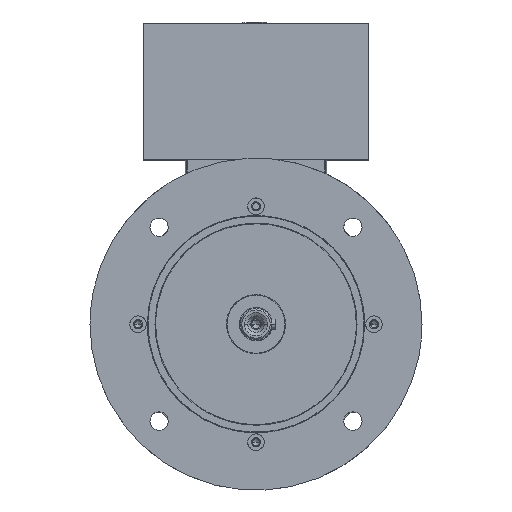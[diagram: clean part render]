
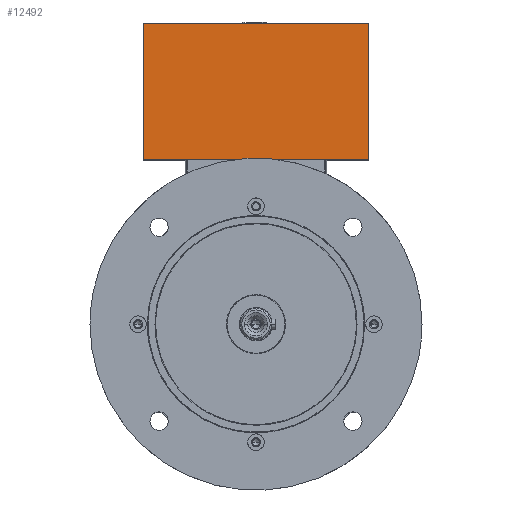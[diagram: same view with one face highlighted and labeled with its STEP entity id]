
A CAD part, top view. The second image highlights one B-rep face of the part: STEP entity #12492.
In plain terms, the highlighted planar face has unit normal (0, 0, 1).
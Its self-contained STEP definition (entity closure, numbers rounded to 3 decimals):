
#102 = CARTESIAN_POINT ( 'NONE',  ( -67.5, -91.919, 67.5 ) ) ;
#262 = EDGE_CURVE ( 'NONE', #28275, #43996, #7291, .T. ) ;
#283 = FACE_OUTER_BOUND ( 'NONE', #1639, .T. ) ;
#1639 = EDGE_LOOP ( 'NONE', ( #35482, #18553, #12863, #30404 ) ) ;
#1665 = LINE ( 'NONE', #39333, #18054 ) ;
#3846 = DIRECTION ( 'NONE',  ( 0., 0., 1. ) ) ;
#7235 = EDGE_CURVE ( 'NONE', #43996, #46008, #1665, .T. ) ;
#7291 = LINE ( 'NONE', #44910, #15479 ) ;
#7355 = DIRECTION ( 'NONE',  ( 1., 0., 0. ) ) ;
#7787 = PLANE ( 'NONE',  #21013 ) ;
#9073 = VECTOR ( 'NONE', #9852, 1000. ) ;
#9077 = CARTESIAN_POINT ( 'NONE',  ( -67.5, 99., 67.5 ) ) ;
#9852 = DIRECTION ( 'NONE',  ( 0., 1., 0. ) ) ;
#10139 = CARTESIAN_POINT ( 'NONE',  ( -67.5, 181., 67.5 ) ) ;
#11538 = DIRECTION ( 'NONE',  ( 1., 0., 0. ) ) ;
#12279 = LINE ( 'NONE', #17518, #26868 ) ;
#12492 = ADVANCED_FACE ( 'NONE', ( #283 ), #7787, .T. ) ;
#12863 = ORIENTED_EDGE ( 'NONE', *, *, #7235, .F. ) ;
#13757 = DIRECTION ( 'NONE',  ( 1., 0., 0. ) ) ;
#15479 = VECTOR ( 'NONE', #7355, 1000. ) ;
#15772 = EDGE_CURVE ( 'NONE', #22635, #46008, #12279, .T. ) ;
#17518 = CARTESIAN_POINT ( 'NONE',  ( 0., 99., 67.5 ) ) ;
#18054 = VECTOR ( 'NONE', #28196, 1000. ) ;
#18553 = ORIENTED_EDGE ( 'NONE', *, *, #15772, .T. ) ;
#18987 = LINE ( 'NONE', #21451, #9073 ) ;
#21013 = AXIS2_PLACEMENT_3D ( 'NONE', #102, #3846, #11538 ) ;
#21451 = CARTESIAN_POINT ( 'NONE',  ( -67.5, -91.919, 67.5 ) ) ;
#21828 = EDGE_CURVE ( 'NONE', #22635, #28275, #18987, .T. ) ;
#22635 = VERTEX_POINT ( 'NONE', #9077 ) ;
#23418 = CARTESIAN_POINT ( 'NONE',  ( 67.5, 99., 67.5 ) ) ;
#26868 = VECTOR ( 'NONE', #13757, 1000. ) ;
#27208 = CARTESIAN_POINT ( 'NONE',  ( 67.5, 181., 67.5 ) ) ;
#28196 = DIRECTION ( 'NONE',  ( 0., -1., 0. ) ) ;
#28275 = VERTEX_POINT ( 'NONE', #10139 ) ;
#30404 = ORIENTED_EDGE ( 'NONE', *, *, #262, .F. ) ;
#35482 = ORIENTED_EDGE ( 'NONE', *, *, #21828, .F. ) ;
#39333 = CARTESIAN_POINT ( 'NONE',  ( 67.5, -91.919, 67.5 ) ) ;
#43996 = VERTEX_POINT ( 'NONE', #27208 ) ;
#44910 = CARTESIAN_POINT ( 'NONE',  ( -67.5, 181., 67.5 ) ) ;
#46008 = VERTEX_POINT ( 'NONE', #23418 ) ;
